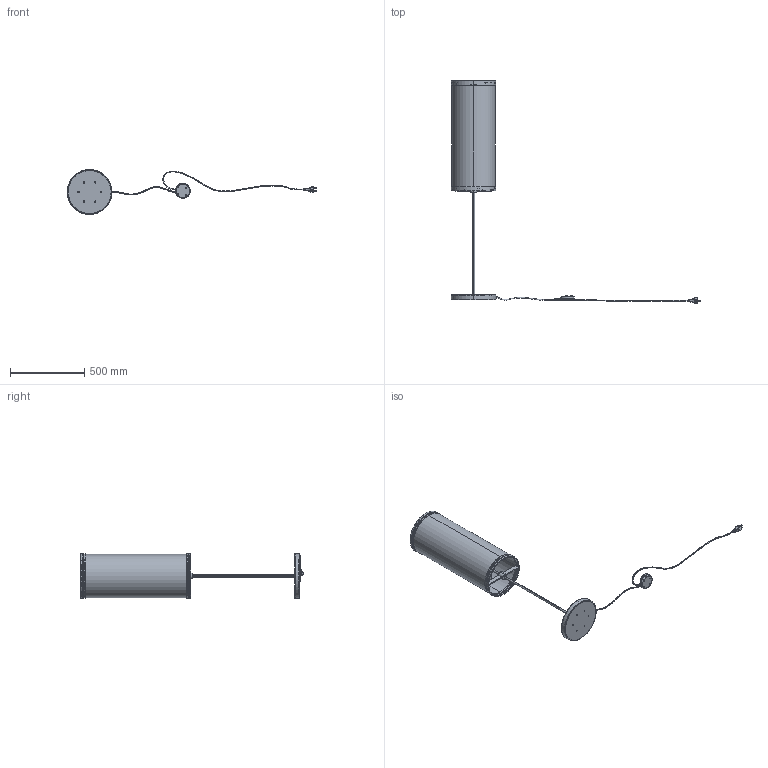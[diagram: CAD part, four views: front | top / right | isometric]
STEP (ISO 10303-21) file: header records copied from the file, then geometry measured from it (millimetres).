
FILE_DESCRIPTION (( 'STEP AP203' ), '1' );
FILE_NAME ('X15-F002 Isol Floor_27.STEP', '2023-06-27T12:19:39', ( '' ), ( '' ), 'SwSTEP 2.0', 'SolidWorks 2023', '' );
FILE_SCHEMA (( 'CONFIG_CONTROL_DESIGN' ));
Length unit declared in the file: millimetre
Products named in the file (26): ATC-X15-0600-R00; ATC-X15-0640-R00; ATC-A04-0030-R00; ATC-X15-0610-R00; Rondella Steab 5xxx_RONDELLA _X2_00d8_X0_10,5 _X2_00d8_X0_15 SP.2 POLIETILENE; ATC-X15-0630-R00; ATC-X15-0650-R00; Dimmer Arditi 1012; ATC-X15-0770-R00; Lamp. S14s Linestra Led L.500mm; ATC-A04-0120-R00; ATC-X15-0560-R00; ATC-X15-0790-R00; Vite a Testa Svasata Piana Cava Esagonale UNI-5933_VITE M4X10 TSPCE UNI-5933; X15-F002 Isol Floor_27; ATC-A04-0210-R02; Nipplo Steab 5016xx_NIPPLO M10X1 L.10 NERO 5016-3-10-2-6; ATC-X15-0620-R00; ATC-A04-0000-R00; ATC-X15-0760-R00; Schuko-Stecker; ATC-X15-0780-R00; ATC-X15-0070-R00; ATC-A04-0010-R01; ATC-X15-0550-R00; ATC-A04-0060-R01
Assembly tree (33 placements, depth 4):
  X15-F002 Isol Floor_27
    Vite a Testa Svasata Piana Cava Esagonale UNI-5933_VITE M4X10 TSPCE UNI-5933  x4
    Nipplo Steab 5016xx_NIPPLO M10X1 L.10 NERO 5016-3-10-2-6
    ATC-X15-0610-R00
    ATC-X15-0550-R00
    ATC-X15-0560-R00
    ATC-X15-0760-R00
      ATC-X15-0630-R00
      ATC-X15-0600-R00
    ATC-X15-0770-R00
      Lamp. S14s Linestra Led L.500mm  x2
      Rondella Steab 5xxx_RONDELLA _X2_00d8_X0_10,5 _X2_00d8_X0_15 SP.2 POLIETILENE
      ATC-X15-0780-R00
        ATC-A04-0060-R01
        ATC-A04-0030-R00  x2
        ATC-X15-0070-R00  x2
        ATC-X15-0620-R00
      ATC-A04-0000-R00  x2
      ATC-A04-0010-R01  x2
      ATC-A04-0120-R00
      ATC-A04-0210-R02
    ATC-X15-0790-R00
      ATC-X15-0640-R00
      Dimmer Arditi 1012
      ATC-X15-0650-R00
      Schuko-Stecker
Bounding box: 1684.54 x 1504.1 x 302 mm (x, y, z)
Volume: 2648270.8 mm3; surface area: 2505394.5 mm2
Topology: 39 solids, 39 shells, 1466 faces, 3632 edges, 2268 vertices
Faces by surface type: cylinder 520, plane 454, bspline 230, cone 175, torus 71, sphere 16
Entity records: 64797 total; most frequent: CARTESIAN_POINT 35280, ORIENTED_EDGE 5866, DIRECTION 5197, EDGE_CURVE 2933, AXIS2_PLACEMENT_3D 2039, VERTEX_POINT 1842, EDGE_LOOP 1275, ADVANCED_FACE 1179
